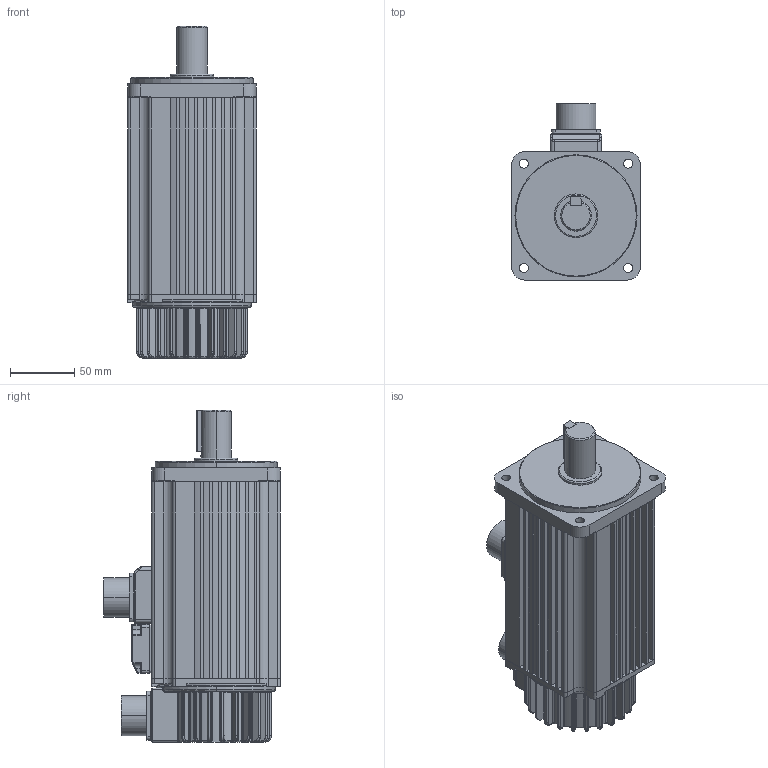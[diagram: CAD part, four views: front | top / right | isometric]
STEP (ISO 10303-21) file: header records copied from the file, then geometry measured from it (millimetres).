
FILE_DESCRIPTION (( 'STEP AP214' ), '1' );
FILE_NAME ('ISMH2-10C30CD-U234Y.STEP', '2017-06-29T05:45:49', ( 'inovance' ), ( '' ), 'SwSTEP 2.0', 'SolidWorks 2016', '' );
FILE_SCHEMA (( 'AUTOMOTIVE_DESIGN' ));
Length unit declared in the file: millimetre
Products named in the file (1): ISMH2-10C30CD-U234Y
Bounding box: 100 x 137.5 x 258.5 mm (x, y, z)
Volume: 1739812.4 mm3; surface area: 255977.8 mm2
Topology: 14 solids, 14 shells, 1210 faces, 3040 edges, 1828 vertices
Faces by surface type: cylinder 556, plane 297, torus 236, sphere 105, bspline 11, cone 5
Entity records: 49536 total; most frequent: CARTESIAN_POINT 6840, DIRECTION 6800, ORIENTED_EDGE 5754, EDGE_CURVE 2877, AXIS2_PLACEMENT_3D 2752, VERTEX_POINT 1741, CIRCLE 1552, EDGE_LOOP 1342
